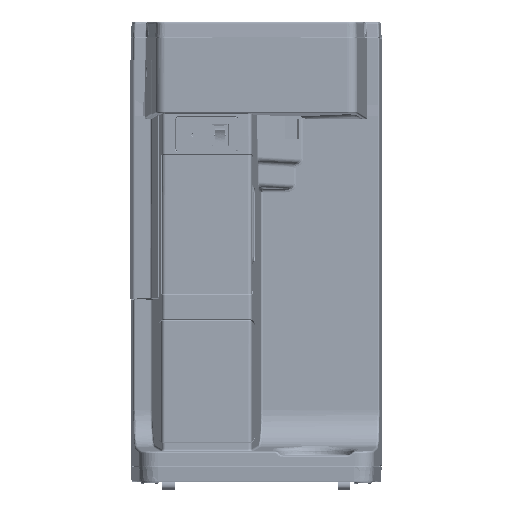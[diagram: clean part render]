
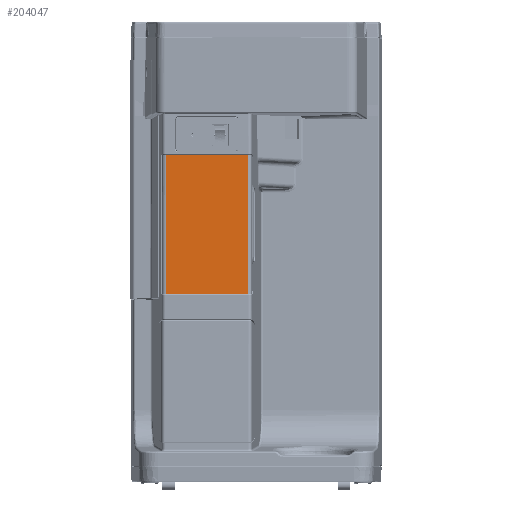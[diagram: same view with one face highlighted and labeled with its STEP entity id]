
A CAD part, top view. The second image highlights one B-rep face of the part: STEP entity #204047.
In plain terms, the highlighted planar face has unit normal (0, 0, 1).
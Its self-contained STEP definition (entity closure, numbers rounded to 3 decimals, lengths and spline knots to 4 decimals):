
#3588 = CARTESIAN_POINT ( 'NONE',  ( -3.6157, 12.3862, 9.125 ) ) ;
#33337 = VECTOR ( 'NONE', #329269, 39.3701 ) ;
#40142 = DIRECTION ( 'NONE',  ( -1., 0., 0. ) ) ;
#65328 = DIRECTION ( 'NONE',  ( 0., 0., -1. ) ) ;
#68901 = ORIENTED_EDGE ( 'NONE', *, *, #129282, .T. ) ;
#72008 = CARTESIAN_POINT ( 'NONE',  ( -3.6157, 12.4067, 9.125 ) ) ;
#72516 = LINE ( 'NONE', #3588, #33337 ) ;
#80873 = DIRECTION ( 'NONE',  ( 1., 0., 0. ) ) ;
#95079 = VECTOR ( 'NONE', #123781, 39.3701 ) ;
#107587 = LINE ( 'NONE', #258714, #273674 ) ;
#123781 = DIRECTION ( 'NONE',  ( 1., 0., 0. ) ) ;
#128371 = EDGE_CURVE ( 'NONE', #252628, #269517, #307565, .T. ) ;
#129282 = EDGE_CURVE ( 'NONE', #252628, #149442, #72516, .T. ) ;
#130600 = ORIENTED_EDGE ( 'NONE', *, *, #128371, .F. ) ;
#136168 = DIRECTION ( 'NONE',  ( 0., -1., 0. ) ) ;
#137070 = EDGE_CURVE ( 'NONE', #149442, #327441, #283146, .T. ) ;
#149442 = VERTEX_POINT ( 'NONE', #153762 ) ;
#153762 = CARTESIAN_POINT ( 'NONE',  ( -3.6157, 6.8797, 9.125 ) ) ;
#161511 = CARTESIAN_POINT ( 'NONE',  ( -3.6157, 12.4067, 9.125 ) ) ;
#167859 = EDGE_LOOP ( 'NONE', ( #68901, #205548, #278898, #130600 ) ) ;
#189444 = EDGE_CURVE ( 'NONE', #269517, #327441, #107587, .T. ) ;
#192396 = AXIS2_PLACEMENT_3D ( 'NONE', #248222, #65328, #40142 ) ;
#201060 = CARTESIAN_POINT ( 'NONE',  ( -3.6157, 6.8797, 9.125 ) ) ;
#204047 = ADVANCED_FACE ( 'NONE', ( #286971 ), #275034, .F. ) ;
#205548 = ORIENTED_EDGE ( 'NONE', *, *, #137070, .T. ) ;
#248222 = CARTESIAN_POINT ( 'NONE',  ( -3.6157, 12.3862, 9.125 ) ) ;
#252628 = VERTEX_POINT ( 'NONE', #72008 ) ;
#258714 = CARTESIAN_POINT ( 'NONE',  ( -0.3364, 12.3862, 9.125 ) ) ;
#269517 = VERTEX_POINT ( 'NONE', #292677 ) ;
#273674 = VECTOR ( 'NONE', #136168, 39.3701 ) ;
#275034 = PLANE ( 'NONE',  #192396 ) ;
#278898 = ORIENTED_EDGE ( 'NONE', *, *, #189444, .F. ) ;
#283146 = LINE ( 'NONE', #201060, #95079 ) ;
#286971 = FACE_OUTER_BOUND ( 'NONE', #167859, .T. ) ;
#292677 = CARTESIAN_POINT ( 'NONE',  ( -0.3364, 12.4067, 9.125 ) ) ;
#307565 = LINE ( 'NONE', #161511, #322521 ) ;
#322521 = VECTOR ( 'NONE', #80873, 39.3701 ) ;
#323232 = CARTESIAN_POINT ( 'NONE',  ( -0.3364, 6.8797, 9.125 ) ) ;
#327441 = VERTEX_POINT ( 'NONE', #323232 ) ;
#329269 = DIRECTION ( 'NONE',  ( 0., -1., 0. ) ) ;
